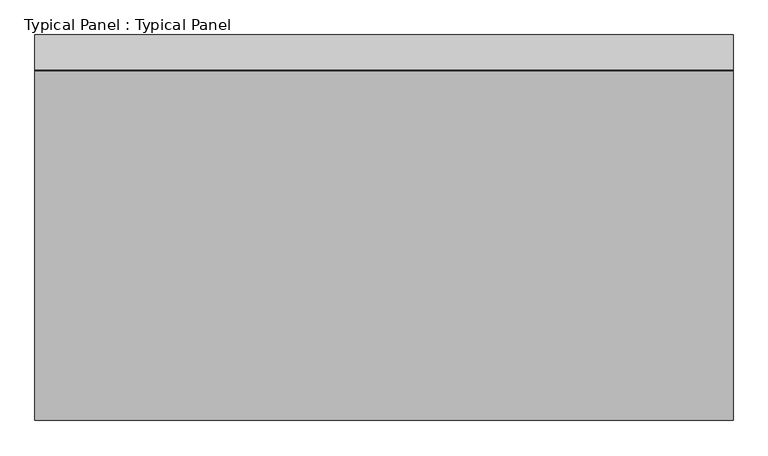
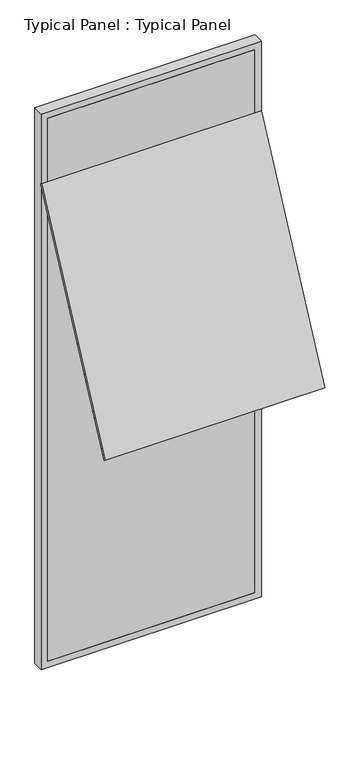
"""IFC4 building model written with IfcOpenShell, lengths in millimetres: plate geometry, Typical Panel : Typical Panel."""

import ifcopenshell
import ifcopenshell.guid

model = None  # the IFC model being written
_history = None  # IfcOwnerHistory: only IFC2X3 demands one
_inside = {}  # id of a spatial element -> (the spatial element, [elements in it])
_under = {}  # id of a project, library or spatial element -> (it, [spatial elements below it])
_declared = {}  # id of a project -> (the project, [libraries it declares])
_typed = {}  # id of a type object -> (the type object, [elements of that type])
_made_of = {}  # id of a material, layer set ... -> (it, [elements and type objects made of it])


def new_model(schema):
    """Start an empty IFC model of exactly this schema.

    Asked for "IFC4X3", IfcOpenShell would pick the latest addendum, in which some entities
    have other attributes; the version numbers below select the first issue.
    IFC2X3 requires an IfcOwnerHistory on every rooted entity: one is made here for all.
    """
    global model, _history
    if schema == "IFC4X3":
        model = ifcopenshell.file(schema_version=(4, 3, 0, 0))
    else:
        model = ifcopenshell.file(schema=schema)
    _inside.clear()
    _under.clear()
    _declared.clear()
    _typed.clear()
    _made_of.clear()
    _history = None
    if model.schema == "IFC2X3":
        org = make("IfcOrganization", Name="unknown")
        user = make(
            "IfcPersonAndOrganization",
            ThePerson=make("IfcPerson", FamilyName="unknown"),
            TheOrganization=org,
        )
        app = make(
            "IfcApplication",
            ApplicationDeveloper=org,
            Version="unknown",
            ApplicationFullName="unknown",
            ApplicationIdentifier="unknown",
        )
        _history = make(
            "IfcOwnerHistory",
            OwningUser=user,
            OwningApplication=app,
            ChangeAction="ADDED",
            CreationDate=0,
        )
    return model


def make(cls, **values):
    """One entity of the class cls with the attributes given. An attribute that is None is left unset."""
    return model.create_entity(
        cls, **{name: value for name, value in values.items() if value is not None}
    )


def rooted(cls, **values):
    """An entity with a GlobalId (a new one), such as an element, a storey or a relation."""
    return make(cls, GlobalId=ifcopenshell.guid.new(), OwnerHistory=_history, **values)


def si_unit(unit_type, name, prefix=None):
    """IfcSIUnit, for example si_unit("LENGTHUNIT", "METRE", prefix="MILLI")."""
    return make("IfcSIUnit", UnitType=unit_type, Prefix=prefix, Name=name)


def assignment(units):
    """IfcUnitAssignment: the units of a project."""
    return None if units is None else make("IfcUnitAssignment", Units=units)


def point(xyz):
    """IfcCartesianPoint."""
    return None if xyz is None else make("IfcCartesianPoint", Coordinates=xyz)


def direction(xyz):
    """IfcDirection."""
    return None if xyz is None else make("IfcDirection", DirectionRatios=xyz)


def frame(location, z_axis=None, x_axis=None):
    """IfcAxis2Placement3D, a coordinate frame: its origin and axes. An axis left out is left unset."""
    return make(
        "IfcAxis2Placement3D",
        Location=point(location),
        Axis=direction(z_axis),
        RefDirection=direction(x_axis),
    )


def origin():
    """The frame at (0, 0, 0) with its axes left unset."""
    return frame((0.0, 0.0, 0.0))


def place(relative_to, where):
    """IfcLocalPlacement: puts the frame where relative to a parent placement (None: the world)."""
    return make(
        "IfcLocalPlacement", PlacementRelTo=relative_to, RelativePlacement=where
    )


def context(
    kind, dimensions, precision=None, world=None, true_north=None, identifier=None
):
    """IfcGeometricRepresentationContext, for example the 3D "Model" context."""
    return make(
        "IfcGeometricRepresentationContext",
        ContextIdentifier=identifier,
        ContextType=kind,
        CoordinateSpaceDimension=dimensions,
        Precision=precision,
        WorldCoordinateSystem=world,
        TrueNorth=true_north,
    )


def project(units=None, contexts=None):
    """IfcProject with its units and contexts."""
    return rooted(
        "IfcProject",
        Name="project",
        RepresentationContexts=contexts,
        UnitsInContext=assignment(units),
    )


def spatial(cls, under=None, at=None, **own):
    """A site, building, storey or space (cls), placed at a placement, below another one or the project."""
    s = rooted(cls, ObjectPlacement=at, **own)
    if under is not None:
        _under.setdefault(under.id(), (under, []))[1].append(s)
    return s


def polyline(points):
    """IfcPolyline through the points."""
    return make("IfcPolyline", Points=[point(p) for p in points])


def outline(outer, holes=None, kind="AREA"):
    """IfcArbitraryClosedProfileDef: a profile drawn as a closed curve; with holes, ...WithVoids."""
    if holes is None:
        return make("IfcArbitraryClosedProfileDef", ProfileType=kind, OuterCurve=outer)
    return make(
        "IfcArbitraryProfileDefWithVoids",
        ProfileType=kind,
        OuterCurve=outer,
        InnerCurves=holes,
    )


def extrude(swept, where, along, depth):
    """IfcExtrudedAreaSolid: the profile swept, set in the frame where, extruded along a direction by depth."""
    return make(
        "IfcExtrudedAreaSolid",
        SweptArea=swept,
        Position=where,
        ExtrudedDirection=direction(along),
        Depth=depth,
    )


def shape(context_of_items, identifier, shape_type, items):
    """IfcShapeRepresentation: the items that make up one representation, for example the "Body"."""
    return make(
        "IfcShapeRepresentation",
        ContextOfItems=context_of_items,
        RepresentationIdentifier=identifier,
        RepresentationType=shape_type,
        Items=items,
    )


def source(mapping_origin, context_of_items, identifier, shape_type, items):
    """IfcRepresentationMap: a shape defined once, which mapped items show again and again."""
    return make(
        "IfcRepresentationMap",
        MappingOrigin=mapping_origin,
        MappedRepresentation=shape(context_of_items, identifier, shape_type, items),
    )


def transform(
    local_origin,
    x_axis=None,
    y_axis=None,
    z_axis=None,
    scale=None,
    scale2=None,
    scale3=None,
    uniform=True,
):
    """IfcCartesianTransformationOperator3D, or its non-uniform kind. x_axis, y_axis, z_axis: its Axis1, 2, 3."""
    if uniform:
        return make(
            "IfcCartesianTransformationOperator3D",
            Axis1=direction(x_axis),
            Axis2=direction(y_axis),
            LocalOrigin=point(local_origin),
            Scale=scale,
            Axis3=direction(z_axis),
        )
    return make(
        "IfcCartesianTransformationOperator3DnonUniform",
        Axis1=direction(x_axis),
        Axis2=direction(y_axis),
        LocalOrigin=point(local_origin),
        Scale=scale,
        Axis3=direction(z_axis),
        Scale2=scale2,
        Scale3=scale3,
    )


def mapped(mapping_source, mapping_target):
    """IfcMappedItem: shows the shape of a source again, moved by a transform."""
    return make(
        "IfcMappedItem", MappingSource=mapping_source, MappingTarget=mapping_target
    )


def made_of(thing, what):
    """Note that an element or type object is made of a material, layer set ...; save() writes the relation."""
    if what is not None:
        _made_of.setdefault(what.id(), (what, []))[1].append(thing)
    return thing


def element(
    cls,
    number,
    at=None,
    inside=None,
    cuts=None,
    type_object=None,
    material=None,
    context=None,
    identifier="Body",
    shape_type=None,
    held_by="IfcProductDefinitionShape",
    body=None,
    shapes=None,
    **own,
):
    """One element of the class cls, such as IfcWall. Its Tag is "e" and its number.

    at: its placement. inside: the storey or other place that contains it. cuts: it is an
    opening in that element (IfcRelVoidsElement). A single representation is given by context,
    identifier, shape_type and body (its items); several are given by shapes. held_by: the class
    of the entity that holds the representations. save() writes the other relations.
    """
    e = rooted(cls, Tag="e%d" % number, ObjectPlacement=at, **own)
    if body is not None:
        shapes = [shape(context, identifier, shape_type, body)]
    if shapes is not None:
        e.Representation = make(held_by, Representations=shapes)
    if inside is not None:
        _inside.setdefault(inside.id(), (inside, []))[1].append(e)
    if cuts is not None:
        rooted(
            "IfcRelVoidsElement", RelatingBuildingElement=cuts, RelatedOpeningElement=e
        )
    if type_object is not None:
        _typed.setdefault(type_object.id(), (type_object, []))[1].append(e)
    return made_of(e, material)


def aggregate(whole, parts):
    """IfcRelAggregates: a whole, such as a stair, and the parts it consists of."""
    return rooted("IfcRelAggregates", RelatingObject=whole, RelatedObjects=parts)


def save(model, path):
    """Write the relations noted so far, then the file.

    IfcRelAggregates (storeys below a building ...), IfcRelContainedInSpatialStructure (elements
    in a storey), IfcRelDefinesByType, IfcRelAssociatesMaterial and IfcRelDeclares: one each for
    every whole, place, type object, material and project.
    """
    for whole, parts in _under.values():
        aggregate(whole, parts)
    for where, things in _inside.values():
        rooted(
            "IfcRelContainedInSpatialStructure",
            RelatedElements=things,
            RelatingStructure=where,
        )
    for kind, things in _typed.values():
        rooted("IfcRelDefinesByType", RelatedObjects=things, RelatingType=kind)
    for what, things in _made_of.values():
        rooted("IfcRelAssociatesMaterial", RelatedObjects=things, RelatingMaterial=what)
    for by, libraries in _declared.values():
        rooted("IfcRelDeclares", RelatingContext=by, RelatedDefinitions=libraries)
    model.write(path)


def typical_panel_typical_panel_f94381c8(model_context):
    return source(origin(), model_context, "Body", "SweptSolid", [
        extrude(outline(polyline([(0.0, -10.0), (0.0, 0.0), (1500.0, 0.0), (1500.0, -10.0), (0.0, -10.0)])), frame((750.0, -754.614661, 1963.0621808), z_axis=(0.0, 0.4383711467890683, 0.8987940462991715), x_axis=(-1.0, 0.0, 0.0)), (0.0, 0.0, 1.0), 1710.0),
        extrude(outline(polyline([(0.0, -750.0), (0.0, 750.0), (4000.0, 750.0), (4000.0, -750.0), (0.0, -750.0)]), holes=[polyline([(45.0, 705.0), (45.0, -705.0), (3955.0, -705.0), (3955.0, 705.0), (45.0, 705.0)])]), frame((0.0, -1.5797986, 0.0), z_axis=(0.0, 1.0, 0.0), x_axis=(0.0, 0.0, 1.0)), (0.0, 0.0, 1.0), 75.0),
        extrude(outline(polyline([(705.0, -1.5797986), (-705.0, -1.5797986), (-705.0, 13.4202014), (705.0, 13.4202014), (705.0, -1.5797986)])), frame((0.0, 0.0, 45.0), z_axis=(0.0, 0.0, 1.0), x_axis=(1.0, 0.0, 0.0)), (0.0, 0.0, 1.0), 3910.0),
    ])


if __name__ == "__main__":
    model = new_model("IFC4")
    model_context = context("Model", 3, world=origin())
    ifc_project = project(units=[si_unit("LENGTHUNIT", "METRE", prefix="MILLI")], contexts=[model_context])
    site = spatial("IfcSite", under=ifc_project)
    building = spatial("IfcBuilding", under=site)
    placement = place(None, origin())
    typical_panel_typical_panel_shape = typical_panel_typical_panel_f94381c8(model_context)
    element("IfcPlate", 1, ObjectType="Typical Panel : Typical Panel", at=placement, inside=building, context=model_context, shape_type="MappedRepresentation", body=[
        mapped(typical_panel_typical_panel_shape, transform((0.0, 0.0, 0.0), x_axis=(1.0, 0.0, 0.0), y_axis=(0.0, 1.0, 0.0), z_axis=(0.0, 0.0, 1.0))),
    ])
    save(model, "model.ifc")
